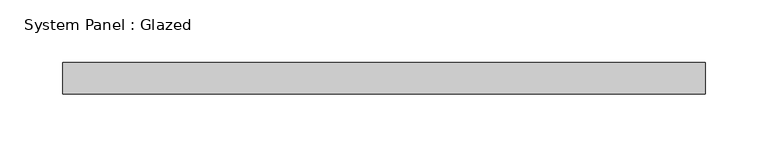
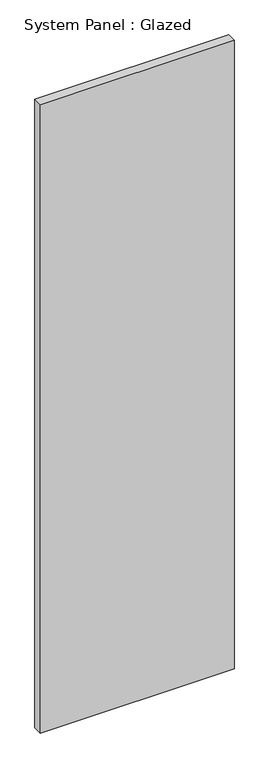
"""IFC4 building model written with IfcOpenShell, lengths in millimetres: plate geometry, System Panel : Glazed."""

import ifcopenshell
import ifcopenshell.guid

model = None  # the IFC model being written
_history = None  # IfcOwnerHistory: only IFC2X3 demands one
_inside = {}  # id of a spatial element -> (the spatial element, [elements in it])
_under = {}  # id of a project, library or spatial element -> (it, [spatial elements below it])
_declared = {}  # id of a project -> (the project, [libraries it declares])
_typed = {}  # id of a type object -> (the type object, [elements of that type])
_made_of = {}  # id of a material, layer set ... -> (it, [elements and type objects made of it])


def new_model(schema):
    """Start an empty IFC model of exactly this schema.

    Asked for "IFC4X3", IfcOpenShell would pick the latest addendum, in which some entities
    have other attributes; the version numbers below select the first issue.
    IFC2X3 requires an IfcOwnerHistory on every rooted entity: one is made here for all.
    """
    global model, _history
    if schema == "IFC4X3":
        model = ifcopenshell.file(schema_version=(4, 3, 0, 0))
    else:
        model = ifcopenshell.file(schema=schema)
    _inside.clear()
    _under.clear()
    _declared.clear()
    _typed.clear()
    _made_of.clear()
    _history = None
    if model.schema == "IFC2X3":
        org = make("IfcOrganization", Name="unknown")
        user = make(
            "IfcPersonAndOrganization",
            ThePerson=make("IfcPerson", FamilyName="unknown"),
            TheOrganization=org,
        )
        app = make(
            "IfcApplication",
            ApplicationDeveloper=org,
            Version="unknown",
            ApplicationFullName="unknown",
            ApplicationIdentifier="unknown",
        )
        _history = make(
            "IfcOwnerHistory",
            OwningUser=user,
            OwningApplication=app,
            ChangeAction="ADDED",
            CreationDate=0,
        )
    return model


def make(cls, **values):
    """One entity of the class cls with the attributes given. An attribute that is None is left unset."""
    return model.create_entity(
        cls, **{name: value for name, value in values.items() if value is not None}
    )


def rooted(cls, **values):
    """An entity with a GlobalId (a new one), such as an element, a storey or a relation."""
    return make(cls, GlobalId=ifcopenshell.guid.new(), OwnerHistory=_history, **values)


def si_unit(unit_type, name, prefix=None):
    """IfcSIUnit, for example si_unit("LENGTHUNIT", "METRE", prefix="MILLI")."""
    return make("IfcSIUnit", UnitType=unit_type, Prefix=prefix, Name=name)


def assignment(units):
    """IfcUnitAssignment: the units of a project."""
    return None if units is None else make("IfcUnitAssignment", Units=units)


def point(xyz):
    """IfcCartesianPoint."""
    return None if xyz is None else make("IfcCartesianPoint", Coordinates=xyz)


def direction(xyz):
    """IfcDirection."""
    return None if xyz is None else make("IfcDirection", DirectionRatios=xyz)


def frame(location, z_axis=None, x_axis=None):
    """IfcAxis2Placement3D, a coordinate frame: its origin and axes. An axis left out is left unset."""
    return make(
        "IfcAxis2Placement3D",
        Location=point(location),
        Axis=direction(z_axis),
        RefDirection=direction(x_axis),
    )


def origin():
    """The frame at (0, 0, 0) with its axes left unset."""
    return frame((0.0, 0.0, 0.0))


def origin_with_axes():
    """The frame at (0, 0, 0) with the z axis (0, 0, 1) and the x axis (1, 0, 0) written out."""
    return frame((0.0, 0.0, 0.0), z_axis=(0.0, 0.0, 1.0), x_axis=(1.0, 0.0, 0.0))


def place(relative_to, where):
    """IfcLocalPlacement: puts the frame where relative to a parent placement (None: the world)."""
    return make(
        "IfcLocalPlacement", PlacementRelTo=relative_to, RelativePlacement=where
    )


def context(
    kind, dimensions, precision=None, world=None, true_north=None, identifier=None
):
    """IfcGeometricRepresentationContext, for example the 3D "Model" context."""
    return make(
        "IfcGeometricRepresentationContext",
        ContextIdentifier=identifier,
        ContextType=kind,
        CoordinateSpaceDimension=dimensions,
        Precision=precision,
        WorldCoordinateSystem=world,
        TrueNorth=true_north,
    )


def project(units=None, contexts=None):
    """IfcProject with its units and contexts."""
    return rooted(
        "IfcProject",
        Name="project",
        RepresentationContexts=contexts,
        UnitsInContext=assignment(units),
    )


def spatial(cls, under=None, at=None, **own):
    """A site, building, storey or space (cls), placed at a placement, below another one or the project."""
    s = rooted(cls, ObjectPlacement=at, **own)
    if under is not None:
        _under.setdefault(under.id(), (under, []))[1].append(s)
    return s


def polyline(points):
    """IfcPolyline through the points."""
    return make("IfcPolyline", Points=[point(p) for p in points])


def outline(outer, holes=None, kind="AREA"):
    """IfcArbitraryClosedProfileDef: a profile drawn as a closed curve; with holes, ...WithVoids."""
    if holes is None:
        return make("IfcArbitraryClosedProfileDef", ProfileType=kind, OuterCurve=outer)
    return make(
        "IfcArbitraryProfileDefWithVoids",
        ProfileType=kind,
        OuterCurve=outer,
        InnerCurves=holes,
    )


def extrude(swept, where, along, depth):
    """IfcExtrudedAreaSolid: the profile swept, set in the frame where, extruded along a direction by depth."""
    return make(
        "IfcExtrudedAreaSolid",
        SweptArea=swept,
        Position=where,
        ExtrudedDirection=direction(along),
        Depth=depth,
    )


def shape(context_of_items, identifier, shape_type, items):
    """IfcShapeRepresentation: the items that make up one representation, for example the "Body"."""
    return make(
        "IfcShapeRepresentation",
        ContextOfItems=context_of_items,
        RepresentationIdentifier=identifier,
        RepresentationType=shape_type,
        Items=items,
    )


def source(mapping_origin, context_of_items, identifier, shape_type, items):
    """IfcRepresentationMap: a shape defined once, which mapped items show again and again."""
    return make(
        "IfcRepresentationMap",
        MappingOrigin=mapping_origin,
        MappedRepresentation=shape(context_of_items, identifier, shape_type, items),
    )


def transform(
    local_origin,
    x_axis=None,
    y_axis=None,
    z_axis=None,
    scale=None,
    scale2=None,
    scale3=None,
    uniform=True,
):
    """IfcCartesianTransformationOperator3D, or its non-uniform kind. x_axis, y_axis, z_axis: its Axis1, 2, 3."""
    if uniform:
        return make(
            "IfcCartesianTransformationOperator3D",
            Axis1=direction(x_axis),
            Axis2=direction(y_axis),
            LocalOrigin=point(local_origin),
            Scale=scale,
            Axis3=direction(z_axis),
        )
    return make(
        "IfcCartesianTransformationOperator3DnonUniform",
        Axis1=direction(x_axis),
        Axis2=direction(y_axis),
        LocalOrigin=point(local_origin),
        Scale=scale,
        Axis3=direction(z_axis),
        Scale2=scale2,
        Scale3=scale3,
    )


def mapped(mapping_source, mapping_target):
    """IfcMappedItem: shows the shape of a source again, moved by a transform."""
    return make(
        "IfcMappedItem", MappingSource=mapping_source, MappingTarget=mapping_target
    )


def made_of(thing, what):
    """Note that an element or type object is made of a material, layer set ...; save() writes the relation."""
    if what is not None:
        _made_of.setdefault(what.id(), (what, []))[1].append(thing)
    return thing


def element(
    cls,
    number,
    at=None,
    inside=None,
    cuts=None,
    type_object=None,
    material=None,
    context=None,
    identifier="Body",
    shape_type=None,
    held_by="IfcProductDefinitionShape",
    body=None,
    shapes=None,
    **own,
):
    """One element of the class cls, such as IfcWall. Its Tag is "e" and its number.

    at: its placement. inside: the storey or other place that contains it. cuts: it is an
    opening in that element (IfcRelVoidsElement). A single representation is given by context,
    identifier, shape_type and body (its items); several are given by shapes. held_by: the class
    of the entity that holds the representations. save() writes the other relations.
    """
    e = rooted(cls, Tag="e%d" % number, ObjectPlacement=at, **own)
    if body is not None:
        shapes = [shape(context, identifier, shape_type, body)]
    if shapes is not None:
        e.Representation = make(held_by, Representations=shapes)
    if inside is not None:
        _inside.setdefault(inside.id(), (inside, []))[1].append(e)
    if cuts is not None:
        rooted(
            "IfcRelVoidsElement", RelatingBuildingElement=cuts, RelatedOpeningElement=e
        )
    if type_object is not None:
        _typed.setdefault(type_object.id(), (type_object, []))[1].append(e)
    return made_of(e, material)


def aggregate(whole, parts):
    """IfcRelAggregates: a whole, such as a stair, and the parts it consists of."""
    return rooted("IfcRelAggregates", RelatingObject=whole, RelatedObjects=parts)


def save(model, path):
    """Write the relations noted so far, then the file.

    IfcRelAggregates (storeys below a building ...), IfcRelContainedInSpatialStructure (elements
    in a storey), IfcRelDefinesByType, IfcRelAssociatesMaterial and IfcRelDeclares: one each for
    every whole, place, type object, material and project.
    """
    for whole, parts in _under.values():
        aggregate(whole, parts)
    for where, things in _inside.values():
        rooted(
            "IfcRelContainedInSpatialStructure",
            RelatedElements=things,
            RelatingStructure=where,
        )
    for kind, things in _typed.values():
        rooted("IfcRelDefinesByType", RelatedObjects=things, RelatingType=kind)
    for what, things in _made_of.values():
        rooted("IfcRelAssociatesMaterial", RelatedObjects=things, RelatingMaterial=what)
    for by, libraries in _declared.values():
        rooted("IfcRelDeclares", RelatingContext=by, RelatedDefinitions=libraries)
    model.write(path)


def system_panel_glazed_1e7caf01(model_context):
    return source(origin(), model_context, "Body", "SweptSolid", [
        extrude(outline(polyline([(257.175, 19.05), (-257.175, 19.05), (-257.175, 44.45), (257.175, 44.45), (257.175, 19.05)])), origin_with_axes(), (0.0, 0.0, 1.0), 1765.3),
    ])


if __name__ == "__main__":
    model = new_model("IFC4")
    model_context = context("Model", 3, world=origin())
    ifc_project = project(units=[si_unit("LENGTHUNIT", "METRE", prefix="MILLI")], contexts=[model_context])
    site = spatial("IfcSite", under=ifc_project)
    building = spatial("IfcBuilding", under=site)
    placement = place(None, origin())
    system_panel_glazed_shape = system_panel_glazed_1e7caf01(model_context)
    element("IfcPlate", 1, ObjectType="System Panel : Glazed", at=placement, inside=building, context=model_context, shape_type="MappedRepresentation", body=[
        mapped(system_panel_glazed_shape, transform((0.0, 0.0, 0.0), x_axis=(1.0, 0.0, 0.0), y_axis=(0.0, 1.0, 0.0), z_axis=(0.0, 0.0, 1.0))),
    ])
    save(model, "model.ifc")
